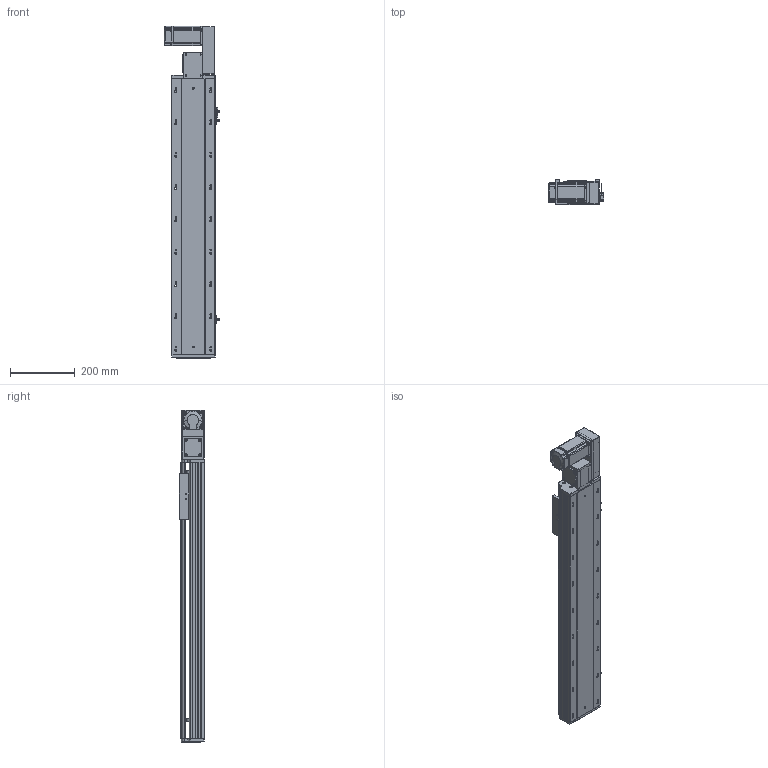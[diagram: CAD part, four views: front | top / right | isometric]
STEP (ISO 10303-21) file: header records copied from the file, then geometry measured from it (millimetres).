
FILE_DESCRIPTION (( 'STEP AP203' ), '1' );
FILE_NAME ('RY140-T-300-RK.SLDASM_600.step', '2021-03-01T06:45:14', ( '盈信电脑' ), ( '东莞市道滘镇水果街19号' ), 'SwSTEP 2.0', 'SolidWorks 2012', '' );
FILE_SCHEMA (( 'CONFIG_CONTROL_DESIGN' ));
Products named in the file (17): RY120-T主同步轮轴承压盖; RY140-T-300-RK.SLDASM_600; RY120-T蹟翐M4; RY140-T萇儂假蚾啣; RY140-T萇儂欶; 15; 滅袉蝶18-10; RY140-T翋肮祭謫盓傅釱; RY140-T翋肮謫裔啣; 覜茼ん672; RY120-T肮祭湍揤踡輸2; RY120-T肮祭湍揤踡輸1; RY120外置感应片(140共用）; RY140綴裔啣; RY140肮祭謫臏賑輸; RY140-T-300-DR倰第奻裔啣_600; RY140-T-300-DR倰第菁釱_600
Assembly tree (22 placements, depth 2):
  RY140-T-300-RK.SLDASM_600
    RY140-T-300-DR倰第菁釱_600
    RY140肮祭謫臏賑輸
    RY140-T-300-DR倰第奻裔啣_600
    RY140綴裔啣
    覜茼ん672  x3
    RY120外置感应片(140共用）
    RY120-T肮祭湍揤踡輸2
    RY120-T肮祭湍揤踡輸1
    RY140-T翋肮祭謫盓傅釱
    滅袉蝶18-10  x2
    RY140-T翋肮謫裔啣
    RY140-T萇儂欶
    RY140-T萇儂假蚾啣
    RY120-T蹟翐M4  x4
    15
    RY120-T主同步轮轴承压盖
Bounding box: 170.7 x 78 x 1026.5 mm (x, y, z)
Volume: 3035020.7 mm3; surface area: 1134409.8 mm2
Topology: 22 solids, 22 shells, 2651 faces, 7289 edges, 4696 vertices
Faces by surface type: plane 1385, cylinder 972, cone 194, bspline 100
Entity records: 84274 total; most frequent: CARTESIAN_POINT 20747, ORIENTED_EDGE 13114, DIRECTION 12377, EDGE_CURVE 6557, VERTEX_POINT 4295, LINE 4189, VECTOR 4189, AXIS2_PLACEMENT_3D 4094
